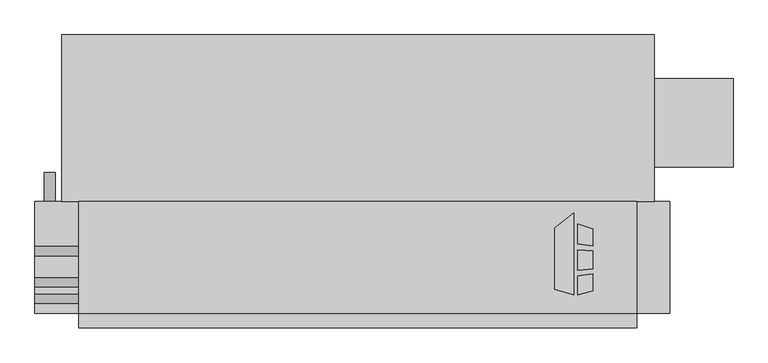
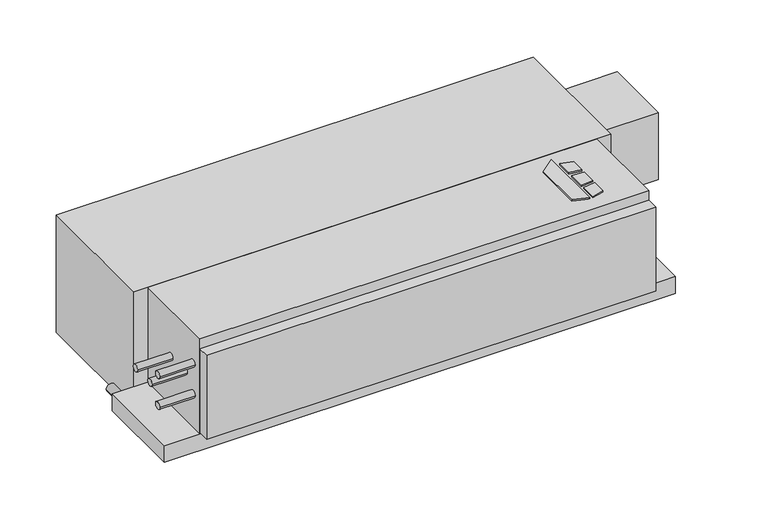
"""IFC4 building model written with IfcOpenShell, lengths in millimetres: proxy geometry, Concealed_Horizontal_Fan_Coil_Unit_With_Plenum_-_CPY_-_IEC_-_4-Pipe_LH_2022 : Size 08 - 277v/60Hz/1Ph - 4/1 Coil."""

from ifc_helpers import new_model, si_unit, point, frame, frame_2d, origin, origin_with_axes, place, context, project, spatial, polyline, circle_curve, trimmed, segment, composite_curve, outline, extrude, source, transform, mapped, element, save


def mechanical_equipment_a1824d72(model_context):
    return source(origin(), model_context, "Body", "SweptSolid", [
        extrude(outline(polyline([(493.4019761, -186.6953476), (525.9602728, -161.2580184), (525.9602728, -303.2125), (493.4019761, -292.9929201), (493.4019761, -186.6953476)])), origin_with_axes(), (0.0, 0.0, 1.0), 3.175),
        extrude(outline(polyline([(532.7186058, -214.567352), (532.7186058, -180.0874379), (558.8, -188.2740115), (558.8, -217.7697446), (532.7186058, -214.567352)])), origin_with_axes(), (0.0, 0.0, 1.0), 3.175),
        extrude(outline(polyline([(558.8, -296.2240115), (532.7186058, -303.2125), (532.7186058, -269.9911996), (558.8, -266.4493564), (558.8, -296.2240115)])), origin_with_axes(), (0.0, 0.0, 1.0), 3.175),
        extrude(outline(polyline([(558.8, -226.8513277), (558.8, -258.101483), (532.7186058, -260.842748), (532.7186058, -224.9850378), (558.8, -226.8513277)])), origin_with_axes(), (0.0, 0.0, 1.0), 3.175),
        extrude(outline(composite_curve([segment(trimmed(circle_curve(frame_2d((-241.3, -381.0)), 9.525), [point((-241.3, -390.525))], [point((-241.3, -371.475))], False, "CARTESIAN"), True, "CONTINUOUS"), segment(trimmed(circle_curve(frame_2d((-241.3, -381.0)), 9.525), [point((-241.3, -371.475))], [point((-241.3, -390.525))], False, "CARTESIAN"), True, "CONTINUOUS")], self_intersect=False)), frame((0.0, -141.2875, 0.0), z_axis=(0.0, 1.0, 0.0), x_axis=(0.0, 0.0, 1.0)), (0.0, 0.0, 1.0), 50.8),
        extrude(outline(composite_curve([segment(trimmed(circle_curve(frame_2d((-309.5625, -69.85)), 7.9375), [point((-301.625, -69.85))], [point((-317.5, -69.85))], False, "CARTESIAN"), True, "CONTINUOUS"), segment(trimmed(circle_curve(frame_2d((-309.5625, -69.85)), 7.9375), [point((-317.5, -69.85))], [point((-301.625, -69.85))], False, "CARTESIAN"), True, "CONTINUOUS")], self_intersect=False)), frame((-406.4, 0.0, 0.0), z_axis=(1.0, 0.0, 0.0), x_axis=(0.0, 1.0, 0.0)), (0.0, 0.0, 1.0), 76.2),
        extrude(outline(composite_curve([segment(trimmed(circle_curve(frame_2d((-309.5625, -139.7)), 7.9375), [point((-301.625, -139.7))], [point((-317.5, -139.7))], False, "CARTESIAN"), True, "CONTINUOUS"), segment(trimmed(circle_curve(frame_2d((-309.5625, -139.7)), 7.9375), [point((-317.5, -139.7))], [point((-301.625, -139.7))], False, "CARTESIAN"), True, "CONTINUOUS")], self_intersect=False)), frame((-406.4, 0.0, 0.0), z_axis=(1.0, 0.0, 0.0), x_axis=(0.0, 1.0, 0.0)), (0.0, 0.0, 1.0), 76.2),
        extrude(outline(composite_curve([segment(trimmed(circle_curve(frame_2d((-227.0125, -104.775)), 7.9375), [point((-219.075, -104.775))], [point((-234.95, -104.775))], False, "CARTESIAN"), True, "CONTINUOUS"), segment(trimmed(circle_curve(frame_2d((-227.0125, -104.775)), 7.9375), [point((-234.95, -104.775))], [point((-219.075, -104.775))], False, "CARTESIAN"), True, "CONTINUOUS")], self_intersect=False)), frame((-406.4, 0.0, 0.0), z_axis=(1.0, 0.0, 0.0), x_axis=(0.0, 1.0, 0.0)), (0.0, 0.0, 1.0), 76.2),
        extrude(outline(composite_curve([segment(trimmed(circle_curve(frame_2d((-280.9875, -104.775)), 7.9375), [point((-273.05, -104.775))], [point((-288.925, -104.775))], False, "CARTESIAN"), True, "CONTINUOUS"), segment(trimmed(circle_curve(frame_2d((-280.9875, -104.775)), 7.9375), [point((-288.925, -104.775))], [point((-273.05, -104.775))], False, "CARTESIAN"), True, "CONTINUOUS")], self_intersect=False)), frame((-406.4, 0.0, 0.0), z_axis=(1.0, 0.0, 0.0), x_axis=(0.0, 1.0, 0.0)), (0.0, 0.0, 1.0), 76.2),
        extrude(outline(polyline([(635.0, -334.9625), (635.0, -360.3625), (-330.2, -360.3625), (-330.2, -334.9625), (635.0, -334.9625)])), frame((0.0, 0.0, -212.725), z_axis=(0.0, 0.0, 1.0), x_axis=(1.0, 0.0, 0.0)), (0.0, 0.0, 1.0), 190.5),
        extrude(outline(polyline([(635.0, -334.9625), (-330.2, -334.9625), (-330.2, -141.2875), (635.0, -141.2875), (635.0, -334.9625)])), frame((0.0, 0.0, -215.9), z_axis=(0.0, 0.0, 1.0), x_axis=(1.0, 0.0, 0.0)), (0.0, 0.0, 1.0), 215.9),
        extrude(outline(polyline([(692.15, -141.2875), (692.15, -334.9625), (-406.4, -334.9625), (-406.4, -141.2875), (692.15, -141.2875)])), frame((0.0, 0.0, -254.0), z_axis=(0.0, 0.0, 1.0), x_axis=(1.0, 0.0, 0.0)), (0.0, 0.0, 1.0), 38.1),
        extrude(outline(polyline([(801.6875, 71.4375), (801.6875, -80.9625), (665.1625, -80.9625), (665.1625, 71.4375), (801.6875, 71.4375)])), frame((0.0, 0.0, -187.325), z_axis=(0.0, 0.0, 1.0), x_axis=(1.0, 0.0, 0.0)), (0.0, 0.0, 1.0), 152.4),
        extrude(outline(polyline([(-360.3625, 147.6375), (665.1625, 147.6375), (665.1625, -141.2875), (-360.3625, -141.2875), (-360.3625, 147.6375)])), frame((0.0, 0.0, -266.7), z_axis=(0.0, 0.0, 1.0), x_axis=(1.0, 0.0, 0.0)), (0.0, 0.0, 1.0), 266.7),
    ])


if __name__ == "__main__":
    model = new_model("IFC4")
    model_context = context("Model", 3, world=origin())
    ifc_project = project(units=[si_unit("LENGTHUNIT", "METRE", prefix="MILLI")], contexts=[model_context])
    site = spatial("IfcSite", under=ifc_project)
    building = spatial("IfcBuilding", under=site)
    placement = place(None, origin())
    mechanical_equipment_shape = mechanical_equipment_a1824d72(model_context)
    element("IfcBuildingElementProxy", 1, Name="Concealed_Horizontal_Fan_Coil_Unit_With_Plenum_-_CPY_-_IEC_-_4-Pipe_LH_2022 : Size 08 - 277v/60Hz/1Ph - 4/1 Coil", ObjectType="Concealed_Horizontal_Fan_Coil_Unit_With_Plenum_-_CPY_-_IEC_-_4-Pipe_LH_2022 : Size 08 - 277v/60Hz/1Ph - 4/1 Coil", at=placement, inside=building, context=model_context, shape_type="MappedRepresentation", body=[
        mapped(mechanical_equipment_shape, transform((0.0, 0.0, 0.0), x_axis=(1.0, 0.0, 0.0), y_axis=(0.0, 1.0, 0.0), z_axis=(0.0, 0.0, 1.0))),
    ])
    save(model, "model.ifc")
